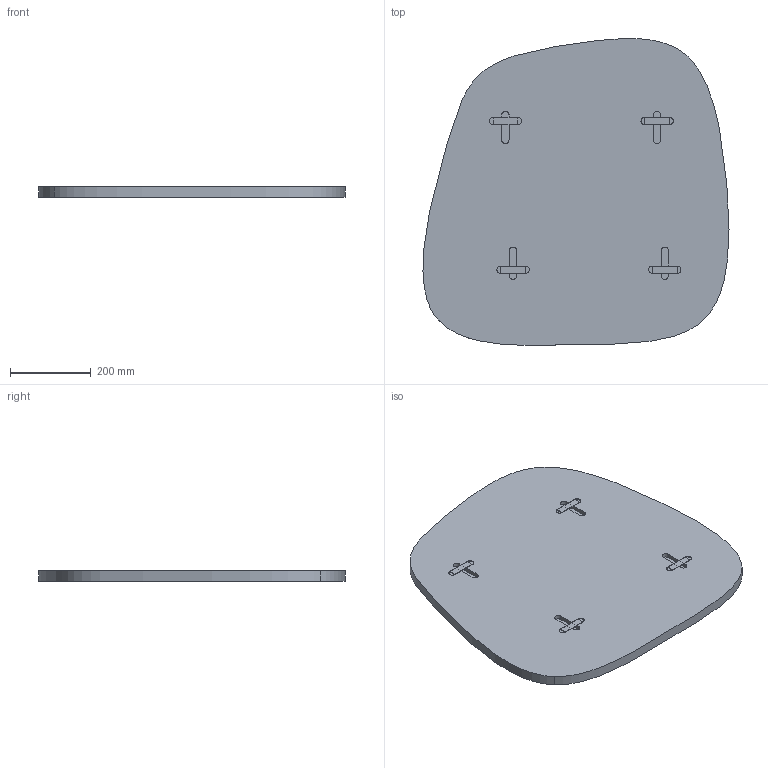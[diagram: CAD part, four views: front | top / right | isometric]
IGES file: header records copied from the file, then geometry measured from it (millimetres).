
Start section: SolidWorks IGES file using analytic representation for surfaces
Global section: file name: Y:\eforma\TECNICO\SOLIDWORKS\E-FORMA\4-SPECCHI\ROUNDED\02 parts\ROU01_Rounded_77x76.IGS; native system: SolidWorks 2022; preprocessor: SolidWorks 2022; author: eforma.tech; date: 240806.095440; units: millimetre
Bounding box: 758.25 x 760.3 x 25 mm (x, y, z)
Volume: 10096495.9 mm3; surface area: 1081895.8 mm2
Topology: 5 solids, 5 shells, 103 faces, 264 edges, 176 vertices
Faces by surface type: plane 63, revolution 36, bspline 4
